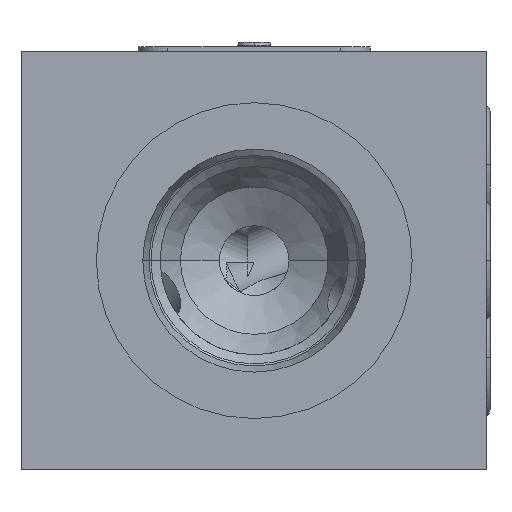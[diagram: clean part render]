
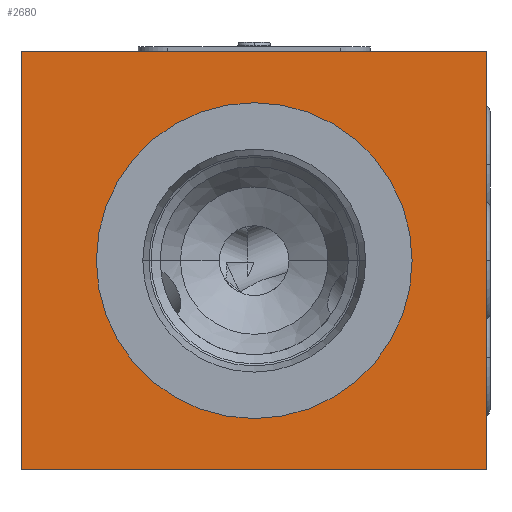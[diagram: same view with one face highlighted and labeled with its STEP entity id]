
A CAD part, left-side view. The second image highlights one B-rep face of the part: STEP entity #2680.
In plain terms, the highlighted planar face has unit normal (-1, 0, 0).
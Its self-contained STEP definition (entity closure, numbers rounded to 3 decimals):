
#54=DIRECTION('',(0.,0.,-1.));
#55=VECTOR('',#54,45.);
#56=CARTESIAN_POINT('',(0.,0.,0.));
#57=LINE('',#56,#55);
#58=DIRECTION('',(0.,1.,0.));
#59=VECTOR('',#58,50.);
#60=CARTESIAN_POINT('',(0.,0.,-45.));
#61=LINE('',#60,#59);
#62=DIRECTION('',(0.,0.,1.));
#63=VECTOR('',#62,45.);
#64=CARTESIAN_POINT('',(0.,50.,-45.));
#65=LINE('',#64,#63);
#66=DIRECTION('',(0.,-1.,0.));
#67=VECTOR('',#66,50.);
#68=CARTESIAN_POINT('',(0.,50.,0.));
#69=LINE('',#68,#67);
#70=CARTESIAN_POINT('',(0.,25.,-22.5));
#71=DIRECTION('',(1.,0.,0.));
#72=DIRECTION('',(0.,-1.,0.));
#73=AXIS2_PLACEMENT_3D('',#70,#71,#72);
#75=CARTESIAN_POINT('',(0.,25.,-22.5));
#76=DIRECTION('',(1.,0.,0.));
#77=DIRECTION('',(0.,1.,0.));
#78=AXIS2_PLACEMENT_3D('',#75,#76,#77);
#2361=CARTESIAN_POINT('',(0.,0.,0.));
#2362=CARTESIAN_POINT('',(0.,0.,-45.));
#2363=VERTEX_POINT('',#2361);
#2364=VERTEX_POINT('',#2362);
#2365=CARTESIAN_POINT('',(0.,50.,-45.));
#2366=VERTEX_POINT('',#2365);
#2367=CARTESIAN_POINT('',(0.,50.,0.));
#2368=VERTEX_POINT('',#2367);
#2523=CARTESIAN_POINT('',(0.,8.,-22.5));
#2524=VERTEX_POINT('',#2523);
#2525=CARTESIAN_POINT('',(0.,42.,-22.5));
#2526=VERTEX_POINT('',#2525);
#2659=CARTESIAN_POINT('',(0.,0.,0.));
#2660=DIRECTION('',(1.,0.,0.));
#2661=DIRECTION('',(0.,0.,-1.));
#2662=AXIS2_PLACEMENT_3D('',#2659,#2660,#2661);
#2663=PLANE('',#2662);
#2665=ORIENTED_EDGE('',*,*,#2664,.T.);
#2667=ORIENTED_EDGE('',*,*,#2666,.T.);
#2669=ORIENTED_EDGE('',*,*,#2668,.T.);
#2671=ORIENTED_EDGE('',*,*,#2670,.T.);
#2672=EDGE_LOOP('',(#2665,#2667,#2669,#2671));
#2673=FACE_OUTER_BOUND('',#2672,.F.);
#2675=ORIENTED_EDGE('',*,*,#2674,.F.);
#2677=ORIENTED_EDGE('',*,*,#2676,.F.);
#2678=EDGE_LOOP('',(#2675,#2677));
#2679=FACE_BOUND('',#2678,.F.);
#74=CIRCLE('',#73,17.);
#79=CIRCLE('',#78,17.);
#2664=EDGE_CURVE('',#2363,#2364,#57,.T.);
#2666=EDGE_CURVE('',#2364,#2366,#61,.T.);
#2668=EDGE_CURVE('',#2366,#2368,#65,.T.);
#2670=EDGE_CURVE('',#2368,#2363,#69,.T.);
#2674=EDGE_CURVE('',#2524,#2526,#74,.T.);
#2676=EDGE_CURVE('',#2526,#2524,#79,.T.);
#2680=ADVANCED_FACE('',(#2673,#2679),#2663,.F.);
